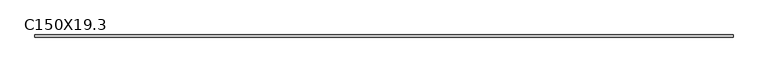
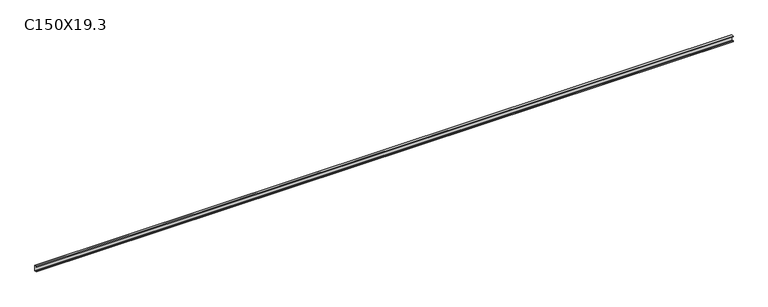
"""IFC4 building model written with IfcOpenShell, lengths in millimetres: beam geometry, EST-PER-C-HGalv : C150X19.3."""

from ifc_helpers import new_model, si_unit, frame, origin, place, context, project, spatial, polyline, outline, extrude, source, transform, mapped, element, save


def c150x19_3_503bdf3b(model_context):
    return source(origin(), model_context, "Body", "SweptSolid", [
        extrude(outline(polyline([(13.1, 80.0), (13.1, -80.0), (-46.9, -80.0), (-46.9, -60.0), (-44.9, -60.0), (-44.9, -78.0), (11.1, -78.0), (11.1, 78.0), (-44.9, 78.0), (-44.9, 60.0), (-46.9, 60.0), (-46.9, 80.0), (13.1, 80.0)])), frame((-10215.0, 0.0, 0.0), z_axis=(1.0, 0.0, 0.0), x_axis=(0.0, 1.0, 0.0)), (0.0, 0.0, 1.0), 19537.0),
    ])


if __name__ == "__main__":
    model = new_model("IFC4")
    model_context = context("Model", 3, world=origin())
    ifc_project = project(units=[si_unit("LENGTHUNIT", "METRE", prefix="MILLI")], contexts=[model_context])
    site = spatial("IfcSite", under=ifc_project)
    building = spatial("IfcBuilding", under=site)
    placement = place(None, origin())
    c150x19_3_shape = c150x19_3_503bdf3b(model_context)
    element("IfcBeam", 1, ObjectType="EST-PER-C-HGalv : C150X19.3", at=placement, inside=building, context=model_context, shape_type="MappedRepresentation", body=[
        mapped(c150x19_3_shape, transform((0.0, 0.0, 0.0), x_axis=(1.0, 0.0, 0.0), y_axis=(0.0, 1.0, 0.0), z_axis=(0.0, 0.0, 1.0))),
    ])
    save(model, "model.ifc")
